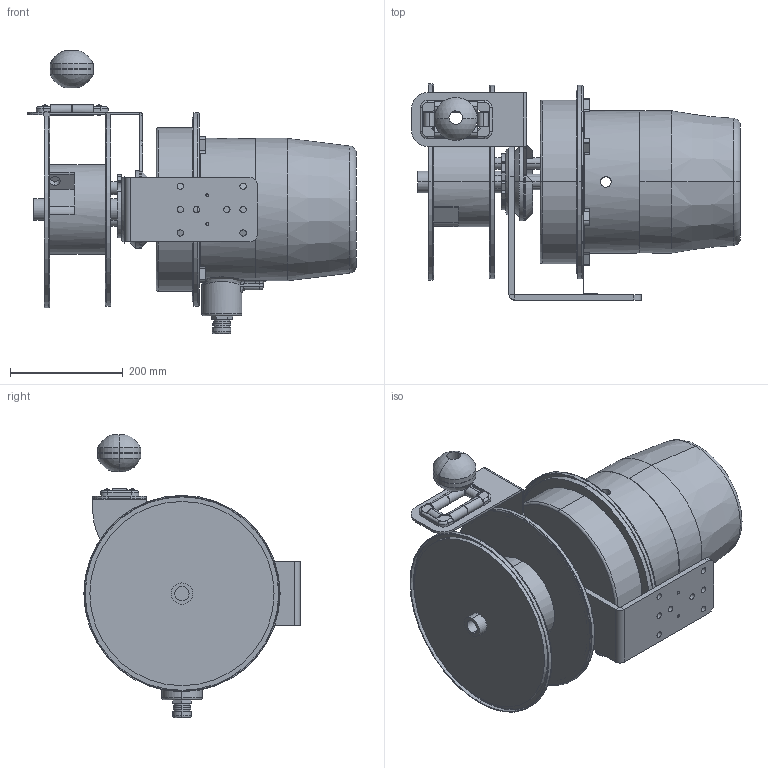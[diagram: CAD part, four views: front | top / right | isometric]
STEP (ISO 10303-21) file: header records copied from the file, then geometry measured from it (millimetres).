
FILE_DESCRIPTION (( 'STEP AP203' ), '1' );
FILE_NAME ('EPL-ATEX-CR-SS.14.4-90FT.STEP', '2025-03-10T20:18:36', ( '' ), ( '' ), 'SwSTEP 2.0', 'SolidWorks 2020', '' );
FILE_SCHEMA (( 'CONFIG_CONTROL_DESIGN' ));
Length unit declared in the file: inch
Products named in the file (2): XA-152100404021-Part#1; EPL-ATEX-CR-SS.14.4-90FT
Assembly tree (1 placements, depth 2):
  EPL-ATEX-CR-SS.14.4-90FT
    XA-152100404021-Part#1
Bounding box: 582.81 x 383.29 x 502 mm (x, y, z)
Volume: 23594841.4 mm3; surface area: 1282283.5 mm2
Topology: 6 solids, 6 shells, 520 faces, 1251 edges, 770 vertices
Faces by surface type: cylinder 232, plane 163, torus 76, bspline 25, sphere 15, cone 9
Entity records: 17559 total; most frequent: CARTESIAN_POINT 5039, DIRECTION 2751, ORIENTED_EDGE 2478, EDGE_CURVE 1239, AXIS2_PLACEMENT_3D 1115, VERTEX_POINT 768, CIRCLE 616, EDGE_LOOP 595
